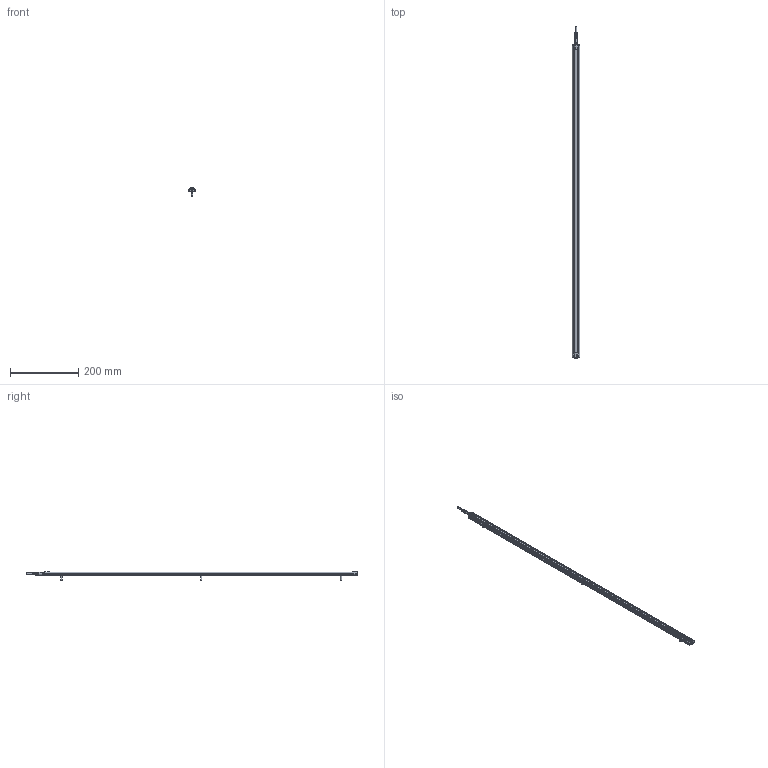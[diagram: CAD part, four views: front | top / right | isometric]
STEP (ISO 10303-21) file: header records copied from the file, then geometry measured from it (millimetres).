
FILE_DESCRIPTION (( 'STEP AP214' ), '1' );
FILE_NAME ('ILGA-B-K2-0920mm.STEP', '2026-04-24T22:55:27', ( '' ), ( '' ), 'SwSTEP 2.0', 'SolidWorks 2025', '' );
FILE_SCHEMA (( 'AUTOMOTIVE_DESIGN' ));
Length unit declared in the file: millimetre
Products named in the file (1): ILGA-B-K2-0920mm
Bounding box: 22.4 x 974.5 x 25.7 mm (x, y, z)
Surface area: 128033 mm2 (no closed solid volume)
Topology: 0 solids, 16 shells, 966 faces, 2516 edges, 1561 vertices
Faces by surface type: cylinder 399, plane 361, cone 84, bspline 56, torus 50, sphere 16
Entity records: 42561 total; most frequent: CARTESIAN_POINT 8657, ORIENTED_EDGE 4913, DIRECTION 4852, EDGE_CURVE 2464, AXIS2_PLACEMENT_3D 1860, VERTEX_POINT 1561, VECTOR 1132, LINE 1132
